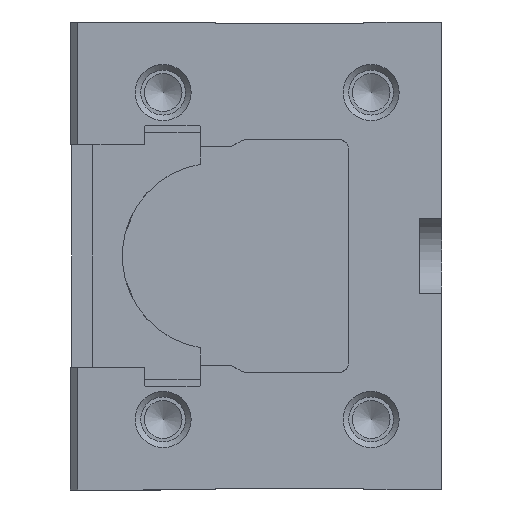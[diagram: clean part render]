
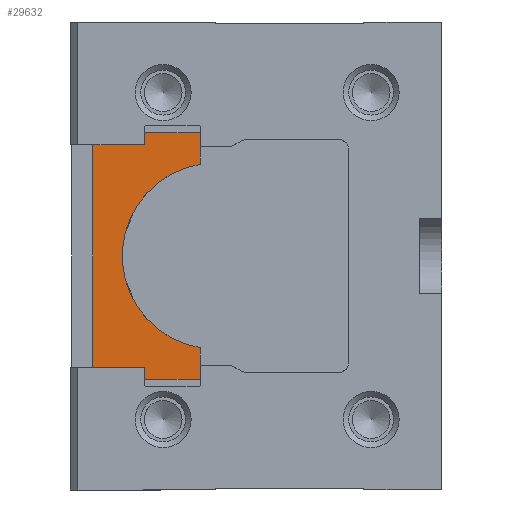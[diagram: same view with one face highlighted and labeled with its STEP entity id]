
A CAD part, left-side view. The second image highlights one B-rep face of the part: STEP entity #29632.
In plain terms, the highlighted planar face has unit normal (-1, 0, 0).
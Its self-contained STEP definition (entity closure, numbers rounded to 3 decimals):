
#137 = VECTOR ( 'NONE', #27352, 1000. ) ;
#1156 = DIRECTION ( 'NONE',  ( 0., 0., 1. ) ) ;
#1855 = LINE ( 'NONE', #38428, #2907 ) ;
#2160 = CARTESIAN_POINT ( 'NONE',  ( 137., 65., 0. ) ) ;
#2435 = EDGE_CURVE ( 'NONE', #23650, #48631, #53054, .T. ) ;
#2907 = VECTOR ( 'NONE', #8585, 1000. ) ;
#3409 = LINE ( 'NONE', #36060, #26709 ) ;
#3516 = VERTEX_POINT ( 'NONE', #33725 ) ;
#3701 = VERTEX_POINT ( 'NONE', #37649 ) ;
#3967 = VECTOR ( 'NONE', #59087, 1000. ) ;
#4535 = DIRECTION ( 'NONE',  ( 0., 1., 0. ) ) ;
#5402 = CARTESIAN_POINT ( 'NONE',  ( 137., 84., 33.25 ) ) ;
#6029 = EDGE_CURVE ( 'NONE', #49812, #23650, #46558, .T. ) ;
#6462 = ORIENTED_EDGE ( 'NONE', *, *, #63954, .T. ) ;
#6888 = ORIENTED_EDGE ( 'NONE', *, *, #2435, .T. ) ;
#7106 = DIRECTION ( 'NONE',  ( 0., 0., 1. ) ) ;
#7333 = DIRECTION ( 'NONE',  ( 0., 0., 1. ) ) ;
#8585 = DIRECTION ( 'NONE',  ( 0., -1., 0. ) ) ;
#8684 = AXIS2_PLACEMENT_3D ( 'NONE', #50647, #30869, #1156 ) ;
#9557 = ORIENTED_EDGE ( 'NONE', *, *, #62786, .T. ) ;
#10887 = CARTESIAN_POINT ( 'NONE',  ( 137., 97.9, -30. ) ) ;
#11209 = VERTEX_POINT ( 'NONE', #44554 ) ;
#11767 = VECTOR ( 'NONE', #53646, 1000. ) ;
#12467 = ORIENTED_EDGE ( 'NONE', *, *, #23452, .F. ) ;
#13422 = CARTESIAN_POINT ( 'NONE',  ( 137., 69., -29.5 ) ) ;
#14786 = LINE ( 'NONE', #22343, #137 ) ;
#17125 = LINE ( 'NONE', #64147, #3967 ) ;
#18445 = CARTESIAN_POINT ( 'NONE',  ( 137., 97.9, 30. ) ) ;
#20373 = VECTOR ( 'NONE', #38385, 1000. ) ;
#20677 = CARTESIAN_POINT ( 'NONE',  ( 137., 69., 29.5 ) ) ;
#21288 = EDGE_CURVE ( 'NONE', #50102, #3701, #1855, .T. ) ;
#21386 = CARTESIAN_POINT ( 'NONE',  ( 137., 84., -33.25 ) ) ;
#22343 = CARTESIAN_POINT ( 'NONE',  ( 137., 69., 33.25 ) ) ;
#23107 = CIRCLE ( 'NONE', #29341, 25. ) ;
#23452 = EDGE_CURVE ( 'NONE', #50102, #60105, #29900, .T. ) ;
#23650 = VERTEX_POINT ( 'NONE', #13422 ) ;
#26709 = VECTOR ( 'NONE', #61101, 1000. ) ;
#27352 = DIRECTION ( 'NONE',  ( 0., 0., 1. ) ) ;
#28867 = ORIENTED_EDGE ( 'NONE', *, *, #21288, .T. ) ;
#29080 = ORIENTED_EDGE ( 'NONE', *, *, #44947, .T. ) ;
#29341 = AXIS2_PLACEMENT_3D ( 'NONE', #2160, #36939, #7106 ) ;
#29632 = ADVANCED_FACE ( 'NONE', ( #32982 ), #55647, .T. ) ;
#29753 = CARTESIAN_POINT ( 'NONE',  ( 137., 69., 33.25 ) ) ;
#29900 = LINE ( 'NONE', #10887, #29953 ) ;
#29953 = VECTOR ( 'NONE', #40738, 1000. ) ;
#30869 = DIRECTION ( 'NONE',  ( -1., 0., 0. ) ) ;
#32882 = VECTOR ( 'NONE', #4535, 1000. ) ;
#32982 = FACE_OUTER_BOUND ( 'NONE', #40468, .T. ) ;
#33725 = CARTESIAN_POINT ( 'NONE',  ( 137., 69., 24.678 ) ) ;
#34918 = CARTESIAN_POINT ( 'NONE',  ( 137., 69., -24.678 ) ) ;
#35188 = LINE ( 'NONE', #58367, #20373 ) ;
#36060 = CARTESIAN_POINT ( 'NONE',  ( 137., 84., -30. ) ) ;
#36573 = EDGE_CURVE ( 'NONE', #59327, #62648, #47823, .T. ) ;
#36704 = ORIENTED_EDGE ( 'NONE', *, *, #40995, .T. ) ;
#36939 = DIRECTION ( 'NONE',  ( 1., 0., 0. ) ) ;
#37649 = CARTESIAN_POINT ( 'NONE',  ( 137., 84., -30. ) ) ;
#38235 = LINE ( 'NONE', #58951, #11767 ) ;
#38385 = DIRECTION ( 'NONE',  ( 0., 0., -1. ) ) ;
#38428 = CARTESIAN_POINT ( 'NONE',  ( 137., 103.6, -30. ) ) ;
#39288 = VERTEX_POINT ( 'NONE', #21386 ) ;
#40468 = EDGE_LOOP ( 'NONE', ( #42033, #12467, #28867, #9557, #6462, #47912, #6888, #51579, #29080, #54838, #42025, #36704 ) ) ;
#40738 = DIRECTION ( 'NONE',  ( 0., 0., 1. ) ) ;
#40895 = LINE ( 'NONE', #47257, #51157 ) ;
#40995 = EDGE_CURVE ( 'NONE', #62648, #11209, #35188, .T. ) ;
#41412 = DIRECTION ( 'NONE',  ( 0., 0., 1. ) ) ;
#42025 = ORIENTED_EDGE ( 'NONE', *, *, #36573, .T. ) ;
#42033 = ORIENTED_EDGE ( 'NONE', *, *, #44629, .T. ) ;
#42636 = DIRECTION ( 'NONE',  ( 0., 0., 1. ) ) ;
#44554 = CARTESIAN_POINT ( 'NONE',  ( 137., 84., 30. ) ) ;
#44629 = EDGE_CURVE ( 'NONE', #11209, #60105, #38235, .T. ) ;
#44947 = EDGE_CURVE ( 'NONE', #3516, #61976, #14786, .T. ) ;
#46558 = LINE ( 'NONE', #58561, #46627 ) ;
#46627 = VECTOR ( 'NONE', #41412, 1000. ) ;
#47257 = CARTESIAN_POINT ( 'NONE',  ( 137., 69., 33.25 ) ) ;
#47823 = LINE ( 'NONE', #64371, #32882 ) ;
#47912 = ORIENTED_EDGE ( 'NONE', *, *, #6029, .T. ) ;
#48381 = EDGE_CURVE ( 'NONE', #48631, #3516, #23107, .T. ) ;
#48631 = VERTEX_POINT ( 'NONE', #34918 ) ;
#49812 = VERTEX_POINT ( 'NONE', #64037 ) ;
#50102 = VERTEX_POINT ( 'NONE', #52142 ) ;
#50647 = CARTESIAN_POINT ( 'NONE',  ( 137., 65., 0. ) ) ;
#51157 = VECTOR ( 'NONE', #7333, 1000. ) ;
#51579 = ORIENTED_EDGE ( 'NONE', *, *, #48381, .T. ) ;
#52142 = CARTESIAN_POINT ( 'NONE',  ( 137., 97.9, -30. ) ) ;
#52178 = EDGE_CURVE ( 'NONE', #61976, #59327, #40895, .T. ) ;
#53045 = VECTOR ( 'NONE', #42636, 1000. ) ;
#53054 = LINE ( 'NONE', #55958, #53045 ) ;
#53646 = DIRECTION ( 'NONE',  ( 0., 1., 0. ) ) ;
#54838 = ORIENTED_EDGE ( 'NONE', *, *, #52178, .T. ) ;
#55647 = PLANE ( 'NONE',  #8684 ) ;
#55958 = CARTESIAN_POINT ( 'NONE',  ( 137., 69., -33.25 ) ) ;
#58367 = CARTESIAN_POINT ( 'NONE',  ( 137., 84., 30. ) ) ;
#58561 = CARTESIAN_POINT ( 'NONE',  ( 137., 69., -33.25 ) ) ;
#58951 = CARTESIAN_POINT ( 'NONE',  ( 137., 103.6, 30. ) ) ;
#59087 = DIRECTION ( 'NONE',  ( 0., -1., 0. ) ) ;
#59327 = VERTEX_POINT ( 'NONE', #29753 ) ;
#60105 = VERTEX_POINT ( 'NONE', #18445 ) ;
#61101 = DIRECTION ( 'NONE',  ( 0., 0., -1. ) ) ;
#61976 = VERTEX_POINT ( 'NONE', #20677 ) ;
#62648 = VERTEX_POINT ( 'NONE', #5402 ) ;
#62786 = EDGE_CURVE ( 'NONE', #3701, #39288, #3409, .T. ) ;
#63954 = EDGE_CURVE ( 'NONE', #39288, #49812, #17125, .T. ) ;
#64037 = CARTESIAN_POINT ( 'NONE',  ( 137., 69., -33.25 ) ) ;
#64147 = CARTESIAN_POINT ( 'NONE',  ( 137., 84., -33.25 ) ) ;
#64371 = CARTESIAN_POINT ( 'NONE',  ( 137., 84., 33.25 ) ) ;
